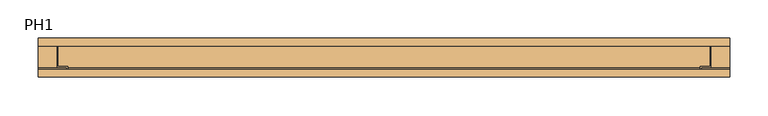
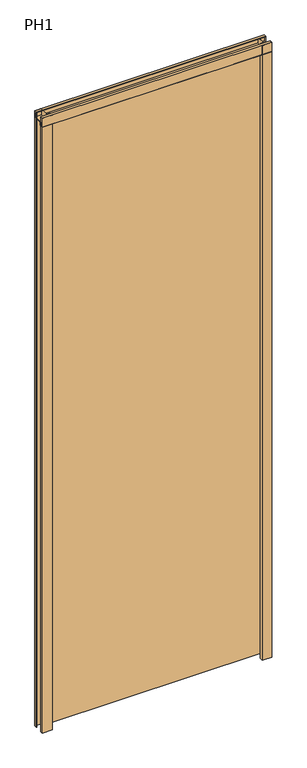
"""IFC4 building model written with IfcOpenShell, lengths in millimetres: door geometry, Puerta Metalica-lisa : PH1."""

from ifc_helpers import new_model, si_unit, frame, origin, origin_with_axes, place, context, project, spatial, polyline, outline, extrude, source, transform, mapped, element, save


def ph1_bbbda500(model_context):
    return source(origin(), model_context, "Body", "SweptSolid", [
        extrude(outline(polyline([(15.4, 2550.0), (25.4, 2550.0), (25.4, 2524.6), (-11.6, 2524.6), (-11.6, 2511.9), (-25.4, 2511.9), (-25.4, 2550.0), (-15.4, 2550.0), (-15.4, 2549.0), (-24.4, 2549.0), (-24.4, 2512.9), (-12.6, 2512.9), (-12.6, 2525.6), (24.4, 2525.6), (24.4, 2549.0), (15.4, 2549.0), (15.4, 2550.0)])), frame((-450.0, 0.0, 0.0), z_axis=(1.0, 0.0, 0.0), x_axis=(0.0, 1.0, 0.0)), (0.0, 0.0, 1.0), 900.0),
        extrude(outline(polyline([(-388.5, 22.9), (-388.5, -8.6), (-420.0, -8.6), (-420.0, 22.9), (-388.5, 22.9)])), frame((0.0, 0.0, 20.0), z_axis=(0.0, 0.0, 1.0), x_axis=(1.0, 0.0, 0.0)), (0.0, 0.0, 1.0), 2491.9),
        extrude(outline(polyline([(388.5, 22.9), (420.0, 22.9), (420.0, -8.6), (388.5, -8.6), (388.5, 22.9)])), frame((0.0, 0.0, 20.0), z_axis=(0.0, 0.0, 1.0), x_axis=(1.0, 0.0, 0.0)), (0.0, 0.0, 1.0), 2491.9),
        extrude(outline(polyline([(420.0, 25.4), (420.0, 22.9), (-420.0, 22.9), (-420.0, 25.4), (420.0, 25.4)])), frame((0.0, 0.0, 20.0), z_axis=(0.0, 0.0, 1.0), x_axis=(1.0, 0.0, 0.0)), (0.0, 0.0, 1.0), 2504.6),
        extrude(outline(polyline([(-420.0, -11.1), (-420.0, -8.6), (420.0, -8.6), (420.0, -11.1), (-420.0, -11.1)])), frame((0.0, 0.0, 20.0), z_axis=(0.0, 0.0, 1.0), x_axis=(1.0, 0.0, 0.0)), (0.0, 0.0, 1.0), 2504.6),
        extrude(outline(polyline([(-450.0, 15.4), (-450.0, 25.4), (-424.6, 25.4), (-424.6, -11.6), (-411.9, -11.6), (-411.9, -25.4), (-450.0, -25.4), (-450.0, -15.4), (-449.0, -15.4), (-449.0, -24.4), (-412.9, -24.4), (-412.9, -12.6), (-425.6, -12.6), (-425.6, 24.4), (-449.0, 24.4), (-449.0, 15.4), (-450.0, 15.4)])), origin_with_axes(), (0.0, 0.0, 1.0), 2550.0),
        extrude(outline(polyline([(450.0, 15.4), (449.0, 15.4), (449.0, 24.4), (425.6, 24.4), (425.6, -12.6), (412.9, -12.6), (412.9, -24.4), (449.0, -24.4), (449.0, -15.4), (450.0, -15.4), (450.0, -25.4), (411.9, -25.4), (411.9, -11.6), (424.6, -11.6), (424.6, 25.4), (450.0, 25.4), (450.0, 15.4)])), origin_with_axes(), (0.0, 0.0, 1.0), 2550.0),
    ])


if __name__ == "__main__":
    model = new_model("IFC4")
    model_context = context("Model", 3, world=origin())
    ifc_project = project(units=[si_unit("LENGTHUNIT", "METRE", prefix="MILLI")], contexts=[model_context])
    site = spatial("IfcSite", under=ifc_project)
    building = spatial("IfcBuilding", under=site)
    placement = place(None, origin())
    ph1_shape = ph1_bbbda500(model_context)
    element("IfcDoor", 1, ObjectType="Puerta Metalica-lisa : PH1", at=placement, inside=building, context=model_context, shape_type="MappedRepresentation", body=[
        mapped(ph1_shape, transform((0.0, 0.0, 0.0), x_axis=(1.0, 0.0, 0.0), y_axis=(0.0, 1.0, 0.0), z_axis=(0.0, 0.0, 1.0))),
    ])
    save(model, "model.ifc")
